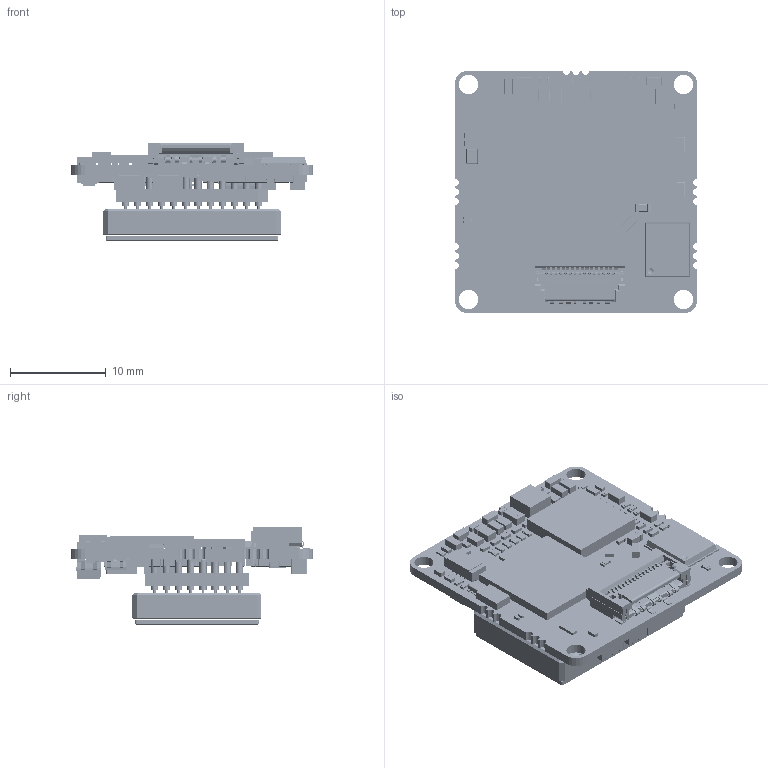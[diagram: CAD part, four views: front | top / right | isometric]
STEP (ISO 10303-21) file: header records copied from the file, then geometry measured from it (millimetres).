
FILE_DESCRIPTION(('Open CASCADE Model'),'2;1');
FILE_NAME('Open CASCADE Shape Model','2015-04-07T12:59:29',('Author'),( 'Open CASCADE'),'Open CASCADE STEP processor 6.2','Open CASCADE 6.2' ,'Unknown');
FILE_SCHEMA(('AUTOMOTIVE_DESIGN { 1 0 10303 214 1 1 1 1 }'));
Length unit declared in the file: millimetre
Products named in the file (283): PCB; Board; J1; 5022441530; Open CASCADE STEP translator 6.2 8.2.1.1; Open CASCADE STEP translator 6.2 8.2.1.2; C136; ChipCap(0603); C135; C134; C133; C132; U14; 602635136; Extruded; U11; User_Library-VFQFPN8_(MLP8); L30; 0402_L; C117; C116; ChipCap(0402); C115; C114; C113; C112; C111; C110; C109; C108; C107; C106; C103; R31; ChipRes(0402); R30; C98; C94; C65; C58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
Assembly tree (462 placements, depth 4):
  PCB
    Board
    J1
      5022441530
        Open CASCADE STEP translator 6.2 8.2.1.1
        Open CASCADE STEP translator 6.2 8.2.1.2
    C136
      ChipCap(0603)
    C135
      ChipCap(0603)
    C134
      ChipCap(0603)
    C133
      ChipCap(0603)
    C132
      ChipCap(0603)
    U14
      602635136
        Extruded
    U11
      User_Library-VFQFPN8_(MLP8)
    L30
      0402_L
    C117
      ChipCap(0603)
    C116
      ChipCap(0402)
    C115
      ChipCap(0402)
    C114
      ChipCap(0402)
    C113
      ChipCap(0603)
    C112
      ChipCap(0402)
    C111
      ChipCap(0402)
    C110
      ChipCap(0402)
    C109
      ChipCap(0402)
    C108
      ChipCap(0402)
    C107
      ChipCap(0603)
    C106
      ChipCap(0402)
    C103
      ChipCap(0603)
    R31
      ChipRes(0402)
    R30
      ChipRes(0402)
    C98
      ChipCap(0402)
    C94
      ChipCap(0402)
    C65
      ChipCap(0603)
    C58
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Bounding box: 25.43 x 25.43 x 10.23 mm (x, y, z)
Volume: 2020.7 mm3; surface area: 6870.8 mm2
Topology: 447 solids, 447 shells, 9559 faces, 23440 edges, 14432 vertices
Faces by surface type: plane 6261, cylinder 2048, sphere 557, bspline 400, cone 194, torus 99
Full cylindrical faces by diameter (mm): 0.3 x95, 0.5 x95, 0.76 x190, 2 x4
Entity records: 292585 total; most frequent: CARTESIAN_POINT 84862, DIRECTION 31422, ORIENTED_EDGE 19364, PCURVE 19364, DEFINITIONAL_REPRESENTATION 19364, LINE 18575, VECTOR 18575, EDGE_CURVE 9682
